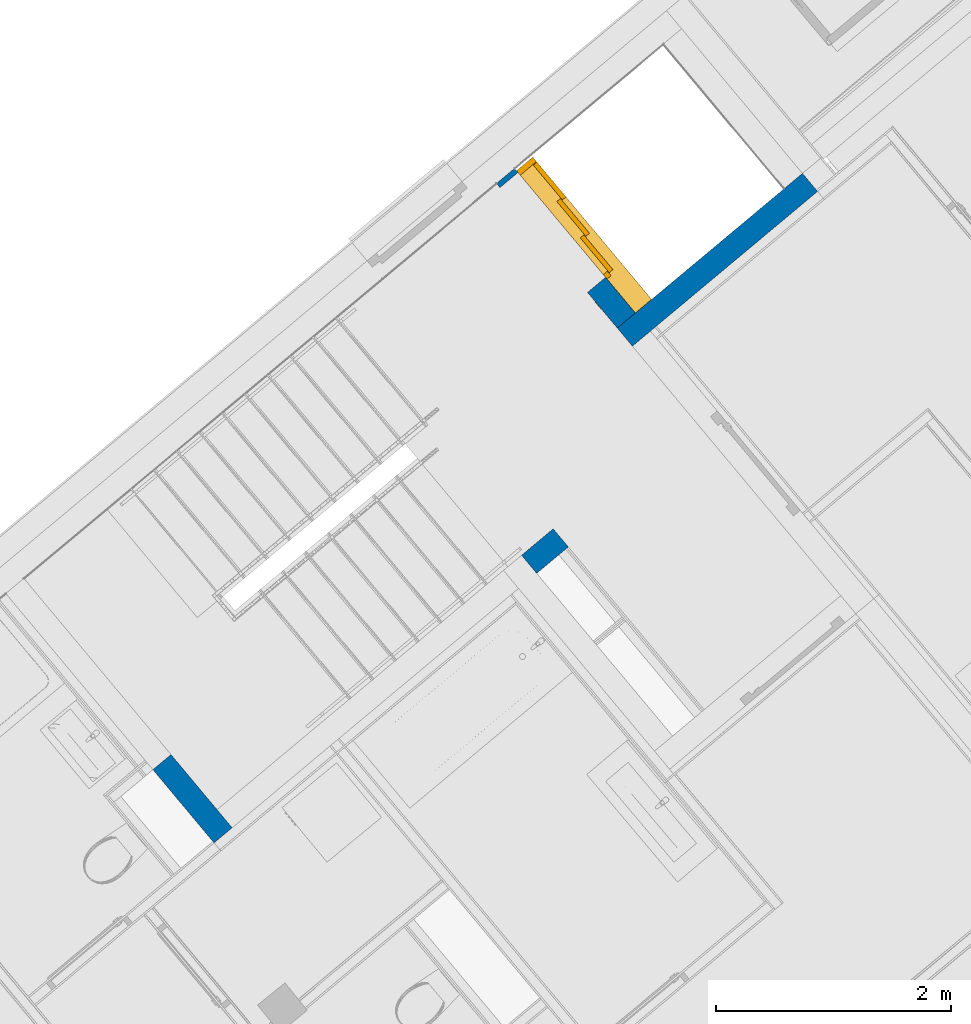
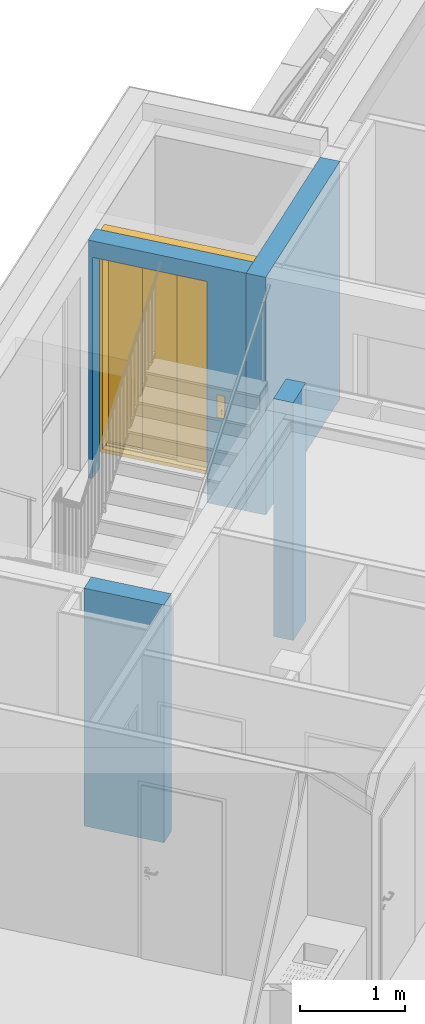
# One storey, part 1 of 58: 4 walls, 1 door, 1 opening.
"""IFC4 building model written with IfcOpenShell, lengths in metres."""

from ifc_helpers import new_model, entity, si_unit, converted_unit, derived_unit, direction, frame, origin_with_axes, place, context, subcontext, project, spatial, polygons, source, transform, mapped, material, type_object, element, fill, save


model = new_model("IFC4")

# Units and contexts
model_context = context("Model", 3, precision=1e-05, world=origin_with_axes(), true_north=direction((0.0, 1.0)))
body_context = subcontext(model_context, "Body", "Model", "MODEL_VIEW")
ifc_project = project(units=[si_unit("LENGTHUNIT", "METRE"), si_unit("AREAUNIT", "SQUARE_METRE"), si_unit("VOLUMEUNIT", "CUBIC_METRE"), converted_unit("PLANEANGLEUNIT", "DEGREE", entity("IfcPlaneAngleMeasure", 0.0174532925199), si_unit("PLANEANGLEUNIT", "RADIAN"), dimensions=[0, 0, 0, 0, 0, 0, 0]), converted_unit("TIMEUNIT", "Year", entity("IfcTimeMeasure", 31556926.0), si_unit("TIMEUNIT", "SECOND"), dimensions=[0, 0, 1, 0, 0, 0, 0]), si_unit("MASSUNIT", "GRAM", prefix="KILO"), si_unit("THERMODYNAMICTEMPERATUREUNIT", "DEGREE_CELSIUS"), si_unit("LUMINOUSINTENSITYUNIT", "LUMEN"), si_unit("ENERGYUNIT", "JOULE", prefix="MEGA"), derived_unit("THERMALCONDUCTANCEUNIT", [(si_unit("POWERUNIT", "WATT"), 1), (si_unit("LENGTHUNIT", "METRE"), -1), (si_unit("THERMODYNAMICTEMPERATUREUNIT", "KELVIN"), -1)]), derived_unit("SPECIFICHEATCAPACITYUNIT", [(si_unit("ENERGYUNIT", "JOULE"), 1), (si_unit("MASSUNIT", "GRAM", prefix="KILO"), -1), (si_unit("THERMODYNAMICTEMPERATUREUNIT", "KELVIN"), -1)]), derived_unit("MASSDENSITYUNIT", [(si_unit("MASSUNIT", "GRAM", prefix="KILO"), 1), (si_unit("VOLUMEUNIT", "CUBIC_METRE"), -1)])], contexts=[model_context])

# Site, building, storey
site_placement = place(None, frame((-0.00153261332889, -0.00661245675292, 0.0), z_axis=(0.0, 0.0, 1.0), x_axis=(1.0, 0.0, 0.0)))
site = spatial("IfcSite", under=ifc_project, at=site_placement, Name="Site", CompositionType="ELEMENT")
building_placement = place(site_placement, origin_with_axes())
building = spatial("IfcBuilding", under=site, at=building_placement, Name="Building", CompositionType="ELEMENT")
storey_placement = place(building_placement, frame((0.0, 0.0, 5.7), z_axis=(0.0, 0.0, 1.0), x_axis=(1.0, 0.0, 0.0)))
storey = spatial("IfcBuildingStorey", under=building, at=storey_placement, Name="DG1", CompositionType="ELEMENT", Elevation=5.7)

# Walls
ifc_material = material(Name="Stahlbeton Wand")
wall_type = type_object("IfcWallType", Name="Stahlbeton Wand 200", PredefinedType="NOTDEFINED")
wall_1_placement = place(storey_placement, frame((0.665404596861, 22.952518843, 0.0), z_axis=(0.0, 0.0, 1.0), x_axis=(-0.767365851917, -0.641209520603, 0.0)))
element("IfcWall", 1, at=wall_1_placement, inside=storey, type_object=wall_type, material=ifc_material, Name="Wand-003", PredefinedType="NOTDEFINED", context=body_context, shape_type="Tessellation", body=[
    polygons([(0.0, 0.0, 2.76), (0.35061386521, 0.0, 2.76), (0.350613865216, 0.2, 2.76), (0.0, 0.2, 2.76), (0.0, 0.0, 0.0), (0.35061386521, 0.0, 0.0), (0.350613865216, 0.2, 0.0), (0.0, 0.2, 0.0)], [[[1, 2, 3, 4]], [[5, 6, 2, 1]], [[6, 7, 3, 2]], [[4, 3, 7, 8]], [[5, 1, 4, 8]], [[8, 7, 6, 5]]], closed=True),
])
wall_2_placement = place(storey_placement, frame((-2.19006942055, 20.5664899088, 0.0), z_axis=(0.0, 0.0, 1.0), x_axis=(-0.641209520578, 0.767365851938, 0.0)))
element("IfcWall", 2, at=wall_2_placement, inside=storey, type_object=wall_type, material=ifc_material, Name="Wand-003", PredefinedType="NOTDEFINED", context=body_context, shape_type="Tessellation", body=[
    polygons([(-0.200000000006, 0.2, 0.0), (0.610381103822, 0.2, 0.0), (0.610381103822, 0.0, 0.0), (-0.2, 0.0, 0.0), (-0.200000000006, 0.2, 2.76), (0.610381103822, 0.2, 2.76), (0.610381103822, 0.0, 2.76), (-0.2, 0.0, 2.76)], [[[1, 2, 3, 4]], [[5, 6, 2, 1]], [[3, 2, 6, 7]], [[4, 3, 7, 8]], [[5, 1, 4, 8]], [[8, 7, 6, 5]]], closed=True),
])
wall_3_placement = place(storey_placement, frame((1.20995426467, 24.6575642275, 0.0), z_axis=(0.0, 0.0, 1.0), x_axis=(0.767354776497, 0.641222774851, 0.0)))
element("IfcWall", 3, at=wall_3_placement, inside=storey, type_object=wall_type, material=ifc_material, Name="Wand-003", PredefinedType="NOTDEFINED", context=body_context, shape_type="Tessellation", body=[
    polygons([(2.04966624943, -0.2, 2.76), (2.04966970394, 0.0, 2.76), (0.0, 0.0, 2.76), (0.0, -0.2, 2.76), (2.04966624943, -0.2, 0.0), (2.04966970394, 0.0, 0.0), (0.0, 0.0, 0.0), (0.0, -0.2, 0.0)], [[[1, 2, 3, 4]], [[2, 1, 5, 6]], [[2, 6, 7, 3]], [[8, 4, 3, 7]], [[5, 1, 4, 8]], [[6, 5, 8, 7]]], closed=True),
])

# Wall, opening, door
wall_4_placement = place(storey_placement, frame((1.36342526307, 24.7858087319, 0.0), z_axis=(0.0, 0.0, 1.0), x_axis=(-0.641161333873, 0.767406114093, 0.0)))
wall_4 = element("IfcWall", 4, at=wall_4_placement, inside=storey, type_object=wall_type, material=ifc_material, Name="Wand-003", PredefinedType="NOTDEFINED", context=body_context, shape_type="Tessellation", body=[
    polygons([(1.55499959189, 0.0, 2.57), (1.55499959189, 0.0, 0.22), (1.55499959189, 0.0, 0.0), (1.60114429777, 0.0, 0.0), (1.60114429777, 0.0, 2.76), (6.64591617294e-08, 0.0, 2.76), (6.64591617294e-08, 0.0, 0.0), (0.394999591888, 0.0, 0.0), (0.394999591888, 0.0, 0.22), (0.394999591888, 0.0, 2.57), (1.55499959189, 0.2, 2.57), (1.55499959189, 0.2, 0.22), (1.55499959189, 0.2, 0.0), (1.6011317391, 0.2, 0.0), (1.6011317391, 0.2, 2.76), (-1.59467136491e-05, 0.2, 2.76), (-1.59467136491e-05, 0.2, 0.0), (0.394999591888, 0.2, 0.0), (0.394999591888, 0.2, 0.22), (0.394999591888, 0.2, 2.57)], [[[1, 2, 3, 4, 5, 6, 7, 8, 9, 10]], [[2, 1, 11, 12]], [[2, 12, 13, 3]], [[3, 13, 14, 4]], [[4, 14, 15, 5]], [[5, 15, 16, 6]], [[16, 17, 7, 6]], [[18, 8, 7, 17]], [[19, 9, 8, 18]], [[10, 9, 19, 20]], [[1, 10, 20, 11]], [[20, 19, 18, 17, 16, 15, 14, 13, 12, 11]]], closed=True),
])
opening_placement = place(wall_4_placement, frame((0.974999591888, 0.0, 0.22), z_axis=(0.0, 0.0, 1.0), x_axis=(1.0, 0.0, 0.0)))
opening = element("IfcOpeningElement", 5, at=opening_placement, cuts=wall_4, Name="Tür-003", context=body_context, identifier="Reference", shape_type="Tessellation", body=[
    polygons([(0.58, 1.19300575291, 2.35), (0.58, 1.19300575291, -0.22), (-0.58, 1.19300575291, -0.22), (-0.58, 1.19300575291, 2.35), (0.58, -0.993005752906, 2.35), (0.58, -0.993005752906, -0.22), (-0.58, -0.993005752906, -0.22), (-0.58, -0.993005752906, 2.35)], [[[1, 2, 3, 4]], [[5, 6, 2, 1]], [[6, 7, 3, 2]], [[7, 8, 4, 3]], [[8, 5, 1, 4]], [[7, 6, 5, 8]]], closed=True),
])
door_type = type_object("IfcDoorType", Name="Teleskoptür 26", OperationType="DOUBLE_DOOR_SLIDING", PredefinedType="NOTDEFINED")
shared_shape = source(origin_with_axes(), body_context, "Body", "Tessellation", [
    polygons([(0.975, 0.135, 2.2), (-0.6, 0.135, 2.2), (-0.6, 0.135, 2.238), (0.975, 0.135, 2.238), (0.975, 0.0, 2.2), (-0.6, 0.0, 2.2), (-0.6, 0.0, 2.48), (-0.6, 0.18, 2.48), (-0.6, 0.18, 2.477), (-0.6, 0.003, 2.477), (-0.6, 0.003, 2.203), (-0.6, 0.132, 2.203), (-0.6, 0.132, 2.238), (0.975, 0.132, 2.238), (0.975, 0.132, 2.203), (0.975, 0.003, 2.203), (0.975, 0.003, 2.477), (0.975, 0.18, 2.477), (0.975, 0.18, 2.48), (0.975, 0.0, 2.48)], [[[1, 2, 3, 4]], [[5, 6, 2, 1]], [[2, 6, 7, 8, 9, 10, 11, 12, 13, 3]], [[4, 3, 13, 14]], [[1, 4, 14, 15, 16, 17, 18, 19, 20, 5]], [[20, 7, 6, 5]], [[19, 8, 7, 20]], [[18, 9, 8, 19]], [[17, 10, 9, 18]], [[16, 11, 10, 17]], [[15, 12, 11, 16]], [[14, 13, 12, 15]]], closed=True),
    polygons([(0.975, 0.05, 2.203), (-0.6, 0.05, 2.203), (-0.6, 0.055, 2.203), (0.975, 0.055, 2.203), (0.975, 0.05, 2.44), (-0.6, 0.05, 2.44), (-0.6, 0.055, 2.44), (0.975, 0.055, 2.44)], [[[1, 2, 3, 4]], [[5, 6, 2, 1]], [[2, 6, 7, 3]], [[4, 3, 7, 8]], [[1, 4, 8, 5]], [[8, 7, 6, 5]]], closed=True),
    polygons([(0.975, 0.05, 2.43), (-0.6, 0.05, 2.43), (-0.6, 0.04, 2.43), (0.975, 0.04, 2.43), (0.975, 0.05, 2.37), (-0.6, 0.05, 2.37), (-0.6, 0.04, 2.37), (0.975, 0.04, 2.37)], [[[1, 2, 3, 4]], [[5, 6, 2, 1]], [[2, 6, 7, 3]], [[4, 3, 7, 8]], [[1, 4, 8, 5]], [[8, 7, 6, 5]]], closed=True),
    polygons([(0.975, 0.05, 2.3), (-0.6, 0.05, 2.3), (-0.6, 0.04, 2.3), (0.975, 0.04, 2.3), (0.975, 0.05, 2.26), (-0.6, 0.05, 2.26), (-0.6, 0.04, 2.26), (0.975, 0.04, 2.26)], [[[1, 2, 3, 4]], [[5, 6, 2, 1]], [[2, 6, 7, 3]], [[4, 3, 7, 8]], [[1, 4, 8, 5]], [[8, 7, 6, 5]]], closed=True),
    polygons([(0.975, 0.05, 2.37), (-0.6, 0.05, 2.37), (-0.6, 0.03, 2.37), (0.975, 0.03, 2.37), (0.975, 0.05, 2.3), (-0.6, 0.05, 2.3), (-0.6, 0.03, 2.3), (0.975, 0.03, 2.3)], [[[1, 2, 3, 4]], [[5, 6, 2, 1]], [[2, 6, 7, 3]], [[4, 3, 7, 8]], [[1, 4, 8, 5]], [[8, 7, 6, 5]]], closed=True),
    polygons([(0.975, 0.095, 2.203), (-0.6, 0.095, 2.203), (-0.6, 0.1, 2.203), (0.975, 0.1, 2.203), (0.975, 0.095, 2.44), (-0.6, 0.095, 2.44), (-0.6, 0.1, 2.44), (0.975, 0.1, 2.44)], [[[1, 2, 3, 4]], [[5, 6, 2, 1]], [[2, 6, 7, 3]], [[4, 3, 7, 8]], [[1, 4, 8, 5]], [[8, 7, 6, 5]]], closed=True),
    polygons([(0.975, 0.095, 2.43), (-0.6, 0.095, 2.43), (-0.6, 0.085, 2.43), (0.975, 0.085, 2.43), (0.975, 0.095, 2.37), (-0.6, 0.095, 2.37), (-0.6, 0.085, 2.37), (0.975, 0.085, 2.37)], [[[1, 2, 3, 4]], [[5, 6, 2, 1]], [[2, 6, 7, 3]], [[4, 3, 7, 8]], [[1, 4, 8, 5]], [[8, 7, 6, 5]]], closed=True),
    polygons([(0.975, 0.095, 2.3), (-0.6, 0.095, 2.3), (-0.6, 0.085, 2.3), (0.975, 0.085, 2.3), (0.975, 0.095, 2.26), (-0.6, 0.095, 2.26), (-0.6, 0.085, 2.26), (0.975, 0.085, 2.26)], [[[1, 2, 3, 4]], [[5, 6, 2, 1]], [[2, 6, 7, 3]], [[4, 3, 7, 8]], [[1, 4, 8, 5]], [[8, 7, 6, 5]]], closed=True),
    polygons([(0.975, 0.095, 2.37), (-0.6, 0.095, 2.37), (-0.6, 0.075, 2.37), (0.975, 0.075, 2.37), (0.975, 0.095, 2.3), (-0.6, 0.095, 2.3), (-0.6, 0.075, 2.3), (0.975, 0.075, 2.3)], [[[1, 2, 3, 4]], [[5, 6, 2, 1]], [[2, 6, 7, 3]], [[4, 3, 7, 8]], [[1, 4, 8, 5]], [[8, 7, 6, 5]]], closed=True),
    polygons([(0.975, 0.14, 2.203), (-0.6, 0.14, 2.203), (-0.6, 0.145, 2.203), (0.975, 0.145, 2.203), (0.975, 0.14, 2.44), (-0.6, 0.14, 2.44), (-0.6, 0.145, 2.44), (0.975, 0.145, 2.44)], [[[1, 2, 3, 4]], [[5, 6, 2, 1]], [[2, 6, 7, 3]], [[4, 3, 7, 8]], [[1, 4, 8, 5]], [[8, 7, 6, 5]]], closed=True),
    polygons([(0.975, 0.14, 2.43), (-0.6, 0.14, 2.43), (-0.6, 0.13, 2.43), (0.975, 0.13, 2.43), (0.975, 0.14, 2.37), (-0.6, 0.14, 2.37), (-0.6, 0.13, 2.37), (0.975, 0.13, 2.37)], [[[1, 2, 3, 4]], [[5, 6, 2, 1]], [[2, 6, 7, 3]], [[4, 3, 7, 8]], [[1, 4, 8, 5]], [[8, 7, 6, 5]]], closed=True),
    polygons([(0.975, 0.14, 2.3), (-0.6, 0.14, 2.3), (-0.6, 0.13, 2.3), (0.975, 0.13, 2.3), (0.975, 0.14, 2.26), (-0.6, 0.14, 2.26), (-0.6, 0.13, 2.26), (0.975, 0.13, 2.26)], [[[1, 2, 3, 4]], [[5, 6, 2, 1]], [[2, 6, 7, 3]], [[4, 3, 7, 8]], [[1, 4, 8, 5]], [[8, 7, 6, 5]]], closed=True),
    polygons([(0.975, 0.14, 2.37), (-0.6, 0.14, 2.37), (-0.6, 0.12, 2.37), (0.975, 0.12, 2.37), (0.975, 0.14, 2.3), (-0.6, 0.14, 2.3), (-0.6, 0.12, 2.3), (0.975, 0.12, 2.3)], [[[1, 2, 3, 4]], [[5, 6, 2, 1]], [[2, 6, 7, 3]], [[4, 3, 7, 8]], [[1, 4, 8, 5]], [[8, 7, 6, 5]]], closed=True),
    polygons([(0.975, 0.0, 0.0), (-0.6, 0.0, 0.0), (-0.6, 0.0, -0.04), (0.975, 0.0, -0.04), (0.975, 0.065, 0.0), (-0.6, 0.065, 0.0), (-0.6, 0.065, -0.01), (-0.6, 0.075, -0.01), (-0.6, 0.075, 0.0), (-0.6, 0.11, 0.0), (-0.6, 0.11, -0.01), (-0.6, 0.12, -0.01), (-0.6, 0.12, 0.0), (-0.6, 0.155, 0.0), (-0.6, 0.155, -0.01), (-0.6, 0.165, -0.01), (-0.6, 0.165, 0.0), (-0.6, 0.18, 0.0), (-0.6, 0.18, -0.04), (0.975, 0.18, -0.04), (0.975, 0.18, 0.0), (0.975, 0.165, 0.0), (0.975, 0.165, -0.01), (0.975, 0.155, -0.01), (0.975, 0.155, 0.0), (0.975, 0.12, 0.0), (0.975, 0.12, -0.01), (0.975, 0.11, -0.01), (0.975, 0.11, 0.0), (0.975, 0.075, 0.0), (0.975, 0.075, -0.01), (0.975, 0.065, -0.01)], [[[1, 2, 3, 4]], [[5, 6, 2, 1]], [[2, 6, 7, 8, 9, 10, 11, 12, 13, 14, 15, 16, 17, 18, 19, 3]], [[4, 3, 19, 20]], [[1, 4, 20, 21, 22, 23, 24, 25, 26, 27, 28, 29, 30, 31, 32, 5]], [[32, 7, 6, 5]], [[31, 8, 7, 32]], [[30, 9, 8, 31]], [[29, 10, 9, 30]], [[28, 11, 10, 29]], [[27, 12, 11, 28]], [[26, 13, 12, 27]], [[25, 14, 13, 26]], [[24, 15, 14, 25]], [[23, 16, 15, 24]], [[22, 17, 16, 23]], [[21, 18, 17, 22]], [[20, 19, 18, 21]]], closed=True),
    polygons([(0.55, 0.0, 0.0), (0.55, 0.0, 2.2), (0.55, 0.045, 2.2), (0.55, 0.045, 0.0), (0.6, 0.0, 0.0), (0.6, 0.0, 2.2), (0.6, 0.045, 2.2), (0.6, 0.045, 0.0)], [[[1, 2, 3, 4]], [[5, 6, 2, 1]], [[2, 6, 7, 3]], [[4, 3, 7, 8]], [[1, 4, 8, 5]], [[8, 7, 6, 5]]], closed=True),
    polygons([(-0.6, 0.0, 0.0), (-0.6, 0.0, 2.2), (-0.6, 0.18, 2.2), (-0.6, 0.18, 0.0), (-0.55, 0.0, 0.0), (-0.55, 0.0, 2.2), (-0.55, 0.18, 2.2), (-0.55, 0.18, 0.0)], [[[1, 2, 3, 4]], [[5, 6, 2, 1]], [[2, 6, 7, 3]], [[4, 3, 7, 8]], [[1, 4, 8, 5]], [[8, 7, 6, 5]]], closed=True),
    polygons([(0.68, -0.2, 0.8), (0.76, -0.2, 0.8), (0.76, -0.203, 0.8), (0.68, -0.203, 0.8), (0.68, -0.2, 1.06), (0.76, -0.2, 1.06), (0.69, -0.2, 1.03), (0.69, -0.2, 0.94), (0.75, -0.2, 0.94), (0.75, -0.2, 1.03), (0.71, -0.2, 0.84), (0.73, -0.2, 0.84), (0.73, -0.2, 0.86), (0.71, -0.2, 0.86), (0.71, -0.2, 0.88), (0.73, -0.2, 0.88), (0.73, -0.2, 0.9), (0.71, -0.2, 0.9), (0.76, -0.203, 1.06), (0.68, -0.203, 1.06), (0.69, -0.203, 1.03), (0.75, -0.203, 1.03), (0.75, -0.203, 0.94), (0.69, -0.203, 0.94), (0.71, -0.203, 0.84), (0.71, -0.203, 0.86), (0.73, -0.203, 0.86), (0.73, -0.203, 0.84), (0.71, -0.203, 0.88), (0.71, -0.203, 0.9), (0.73, -0.203, 0.9), (0.73, -0.203, 0.88)], [[[1, 2, 3, 4]], [[1, 5, 6, 2], [7, 8, 9, 10], [11, 12, 13, 14], [15, 16, 17, 18]], [[2, 6, 19, 3]], [[4, 3, 19, 20], [21, 22, 23, 24], [25, 26, 27, 28], [29, 30, 31, 32]], [[5, 1, 4, 20]], [[6, 5, 20, 19]], [[8, 7, 21, 24]], [[9, 8, 24, 23]], [[10, 9, 23, 22]], [[7, 10, 22, 21]], [[12, 11, 25, 28]], [[13, 12, 28, 27]], [[14, 13, 27, 26]], [[11, 14, 26, 25]], [[16, 15, 29, 32]], [[17, 16, 32, 31]], [[18, 17, 31, 30]], [[15, 18, 30, 29]]], closed=True),
    polygons([(0.69, -0.2, 0.94), (0.75, -0.2, 0.94), (0.75, -0.2025, 0.94), (0.69, -0.2025, 0.94), (0.69, -0.2, 1.03), (0.75, -0.2, 1.03), (0.75, -0.2025, 1.03), (0.69, -0.2025, 1.03)], [[[1, 2, 3, 4]], [[1, 5, 6, 2]], [[2, 6, 7, 3]], [[4, 3, 7, 8]], [[5, 1, 4, 8]], [[6, 5, 8, 7]]], closed=True),
    polygons([(0.704, -0.203, 1.005), (0.71, -0.203, 1.021), (0.716, -0.203, 1.005)], [[[1, 2, 3]]], closed=False),
    polygons([(0.73, -0.203, 1.005), (0.724, -0.203, 1.021), (0.736, -0.203, 1.021)], [[[1, 2, 3]]], closed=False),
    polygons([(0.717272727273, -0.2035, 0.982), (0.717272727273, -0.2035, 0.971636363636), (0.715909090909, -0.2035, 0.970272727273), (0.714545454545, -0.2035, 0.971636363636), (0.714545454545, -0.2035, 0.982), (0.715909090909, -0.2035, 0.983363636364)], [[[1, 2, 3, 4, 5, 6]]], closed=False),
    polygons([(0.717272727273, -0.2035, 0.968363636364), (0.717272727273, -0.2035, 0.958), (0.715909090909, -0.2035, 0.956636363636), (0.714545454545, -0.2035, 0.958), (0.714545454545, -0.2035, 0.968363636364), (0.715909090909, -0.2035, 0.969727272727)], [[[1, 2, 3, 4, 5, 6]]], closed=False),
    polygons([(0.736090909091, -0.2035, 0.982272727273), (0.725727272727, -0.2035, 0.982272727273), (0.724363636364, -0.2035, 0.983636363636), (0.725727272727, -0.2035, 0.985), (0.736090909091, -0.2035, 0.985), (0.737454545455, -0.2035, 0.983636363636)], [[[1, 2, 3, 4, 5, 6]]], closed=False),
    polygons([(0.739090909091, -0.2035, 0.982), (0.739090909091, -0.2035, 0.971636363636), (0.737727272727, -0.2035, 0.970272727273), (0.736363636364, -0.2035, 0.971636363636), (0.736363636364, -0.2035, 0.982), (0.737727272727, -0.2035, 0.983363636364)], [[[1, 2, 3, 4, 5, 6]]], closed=False),
    polygons([(0.736090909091, -0.2035, 0.968636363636), (0.725727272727, -0.2035, 0.968636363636), (0.724363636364, -0.2035, 0.97), (0.725727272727, -0.2035, 0.971363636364), (0.736090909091, -0.2035, 0.971363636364), (0.737454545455, -0.2035, 0.97)], [[[1, 2, 3, 4, 5, 6]]], closed=False),
    polygons([(0.725454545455, -0.2035, 0.968363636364), (0.725454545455, -0.2035, 0.958), (0.724090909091, -0.2035, 0.956636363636), (0.722727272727, -0.2035, 0.958), (0.722727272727, -0.2035, 0.968363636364), (0.724090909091, -0.2035, 0.969727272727)], [[[1, 2, 3, 4, 5, 6]]], closed=False),
    polygons([(0.736090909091, -0.2035, 0.955), (0.725727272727, -0.2035, 0.955), (0.724363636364, -0.2035, 0.956363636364), (0.725727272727, -0.2035, 0.957727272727), (0.736090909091, -0.2035, 0.957727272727), (0.737454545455, -0.2035, 0.956363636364)], [[[1, 2, 3, 4, 5, 6]]], closed=False),
    polygons([(0.73, -0.2, 0.84), (0.71, -0.2, 0.84), (0.71, -0.2, 0.86), (0.73, -0.2, 0.86), (0.730000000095, -0.2015, 0.83999999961), (0.70999999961, -0.2015, 0.83999999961), (0.70999999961, -0.2015, 0.860000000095), (0.730000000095, -0.2015, 0.860000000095), (0.728599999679, -0.202900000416, 0.841400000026), (0.711400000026, -0.202900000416, 0.841400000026), (0.711400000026, -0.202900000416, 0.858599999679), (0.728599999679, -0.202900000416, 0.858599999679)], [[[1, 2, 3, 4]], [[2, 1, 5, 6]], [[3, 2, 6, 7]], [[4, 3, 7, 8]], [[1, 4, 8, 5]], [[6, 5, 9, 10]], [[7, 6, 10, 11]], [[8, 7, 11, 12]], [[5, 8, 12, 9]], [[11, 10, 9, 12]]], closed=True),
    polygons([(0.725, -0.203, 0.855), (0.72, -0.203, 0.844), (0.715, -0.203, 0.855)], [[[1, 2, 3]]], closed=False),
    polygons([(0.73, -0.2, 0.88), (0.71, -0.2, 0.88), (0.71, -0.2, 0.9), (0.73, -0.2, 0.9), (0.730000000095, -0.2015, 0.87999999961), (0.70999999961, -0.2015, 0.87999999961), (0.70999999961, -0.2015, 0.900000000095), (0.730000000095, -0.2015, 0.900000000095), (0.728599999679, -0.202900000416, 0.881400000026), (0.711400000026, -0.202900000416, 0.881400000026), (0.711400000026, -0.202900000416, 0.898599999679), (0.728599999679, -0.202900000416, 0.898599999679)], [[[1, 2, 3, 4]], [[2, 1, 5, 6]], [[3, 2, 6, 7]], [[4, 3, 7, 8]], [[1, 4, 8, 5]], [[6, 5, 9, 10]], [[7, 6, 10, 11]], [[8, 7, 11, 12]], [[5, 8, 12, 9]], [[11, 10, 9, 12]]], closed=True),
    polygons([(0.725, -0.203, 0.885), (0.715, -0.203, 0.885), (0.72, -0.203, 0.896)], [[[1, 2, 3]]], closed=False),
    polygons([(-0.16, 0.14, 0.003), (-0.545, 0.14, 0.003), (-0.545, 0.18, 0.003), (-0.16, 0.18, 0.003), (-0.16, 0.14, 2.2), (-0.545, 0.14, 2.2), (-0.545, 0.18, 2.2), (-0.16, 0.18, 2.2)], [[[1, 2, 3, 4]], [[1, 5, 6, 2]], [[2, 6, 7, 3]], [[4, 3, 7, 8]], [[5, 1, 4, 8]], [[6, 5, 8, 7]]], closed=True),
    polygons([(0.205, 0.095, 0.003), (-0.18, 0.095, 0.003), (-0.18, 0.135, 0.003), (0.205, 0.135, 0.003), (0.205, 0.095, 2.2), (-0.18, 0.095, 2.2), (-0.18, 0.135, 2.2), (0.205, 0.135, 2.2)], [[[1, 2, 3, 4]], [[1, 5, 6, 2]], [[2, 6, 7, 3]], [[4, 3, 7, 8]], [[5, 1, 4, 8]], [[6, 5, 8, 7]]], closed=True),
    polygons([(0.57, 0.05, 0.003), (0.185, 0.05, 0.003), (0.185, 0.09, 0.003), (0.57, 0.09, 0.003), (0.57, 0.05, 2.2), (0.185, 0.05, 2.2), (0.185, 0.09, 2.2), (0.57, 0.09, 2.2)], [[[1, 2, 3, 4]], [[1, 5, 6, 2]], [[2, 6, 7, 3]], [[4, 3, 7, 8]], [[5, 1, 4, 8]], [[6, 5, 8, 7]]], closed=True),
])
door_placement = place(opening_placement, frame((0.55, 0.0, 0.0), z_axis=(0.0, 0.0, 1.0), x_axis=(-1.0, 0.0, 0.0)))
door = element("IfcDoor", 6, at=door_placement, inside=storey, type_object=door_type, Name="Tür-003", OverallHeight=2.57, OverallWidth=1.16, PredefinedType="NOTDEFINED", context=body_context, shape_type="MappedRepresentation", body=[
    mapped(shared_shape, transform((0.55, 0.0, 0.0))),
])
fill(opening, door)

save(model, "model.ifc")
